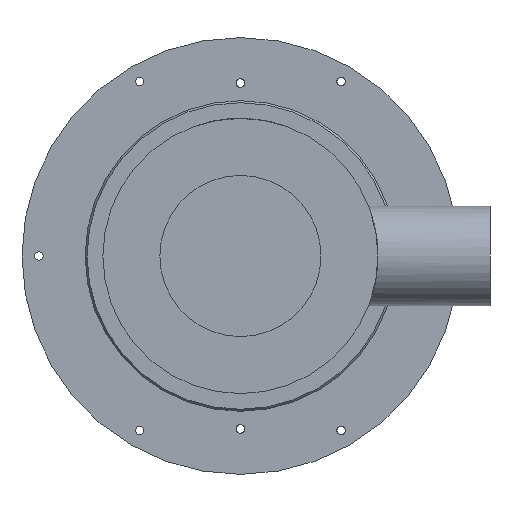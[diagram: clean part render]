
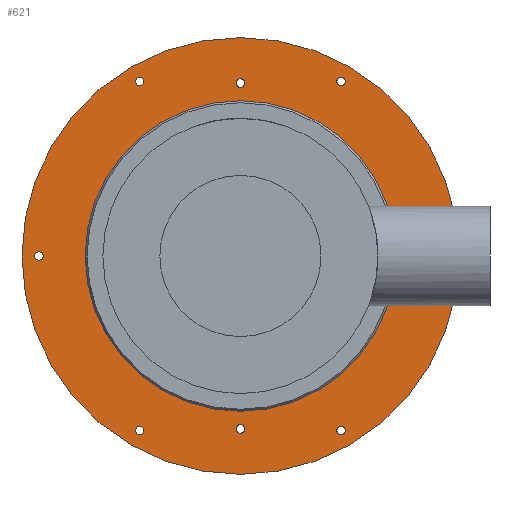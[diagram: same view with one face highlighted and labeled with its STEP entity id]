
A CAD part, front view. The second image highlights one B-rep face of the part: STEP entity #621.
In plain terms, the highlighted planar face has unit normal (0, -1, 0).
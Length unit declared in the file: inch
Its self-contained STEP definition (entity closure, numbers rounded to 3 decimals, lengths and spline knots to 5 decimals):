
#184=CARTESIAN_POINT('',(4.12008,1.03866,0.));
#185=VERTEX_POINT('',#184);
#186=CARTESIAN_POINT('',(4.03543,1.03866,0.));
#187=DIRECTION('',(0.0,1.0,0.0));
#188=DIRECTION('',(-1.0,0.0,0.0));
#189=AXIS2_PLACEMENT_3D('',#186,#187,#188);
#190=CIRCLE('',#189,0.08465);
#191=EDGE_CURVE('',#185,#185,#190,.T.);
#233=CARTESIAN_POINT('',(2.10236,1.03866,3.49478));
#234=VERTEX_POINT('',#233);
#235=CARTESIAN_POINT('',(2.01772,1.03866,3.49478));
#236=DIRECTION('',(0.0,1.0,0.0));
#237=DIRECTION('',(-1.0,0.0,0.0));
#238=AXIS2_PLACEMENT_3D('',#235,#236,#237);
#239=CIRCLE('',#238,0.08465);
#240=EDGE_CURVE('',#234,#234,#239,.T.);
#282=CARTESIAN_POINT('',(0.08465,1.03866,3.46457));
#283=VERTEX_POINT('',#282);
#284=CARTESIAN_POINT('',(0.,1.03866,3.46457));
#285=DIRECTION('',(0.0,1.0,0.0));
#286=DIRECTION('',(-1.0,0.0,0.0));
#287=AXIS2_PLACEMENT_3D('',#284,#285,#286);
#288=CIRCLE('',#287,0.08465);
#289=EDGE_CURVE('',#283,#283,#288,.T.);
#331=CARTESIAN_POINT('',(-1.93307,1.03866,3.49478));
#332=VERTEX_POINT('',#331);
#333=CARTESIAN_POINT('',(-2.01772,1.03866,3.49478));
#334=DIRECTION('',(0.0,1.0,0.0));
#335=DIRECTION('',(-1.0,0.0,0.0));
#336=AXIS2_PLACEMENT_3D('',#333,#334,#335);
#337=CIRCLE('',#336,0.08465);
#338=EDGE_CURVE('',#332,#332,#337,.T.);
#380=CARTESIAN_POINT('',(0.08465,1.03866,-3.46457));
#381=VERTEX_POINT('',#380);
#382=CARTESIAN_POINT('',(0.,1.03866,-3.46457));
#383=DIRECTION('',(0.0,1.0,0.0));
#384=DIRECTION('',(-1.0,0.0,0.0));
#385=AXIS2_PLACEMENT_3D('',#382,#383,#384);
#386=CIRCLE('',#385,0.08465);
#387=EDGE_CURVE('',#381,#381,#386,.T.);
#429=CARTESIAN_POINT('',(-1.93307,1.03866,-3.49478));
#430=VERTEX_POINT('',#429);
#431=CARTESIAN_POINT('',(-2.01772,1.03866,-3.49478));
#432=DIRECTION('',(0.0,1.0,0.0));
#433=DIRECTION('',(-1.0,0.0,0.0));
#434=AXIS2_PLACEMENT_3D('',#431,#432,#433);
#435=CIRCLE('',#434,0.08465);
#436=EDGE_CURVE('',#430,#430,#435,.T.);
#478=CARTESIAN_POINT('',(-3.95079,1.03866,0.));
#479=VERTEX_POINT('',#478);
#480=CARTESIAN_POINT('',(-4.03543,1.03866,0.));
#481=DIRECTION('',(0.0,1.0,0.0));
#482=DIRECTION('',(-1.0,0.0,0.0));
#483=AXIS2_PLACEMENT_3D('',#480,#481,#482);
#484=CIRCLE('',#483,0.08465);
#485=EDGE_CURVE('',#479,#479,#484,.T.);
#527=CARTESIAN_POINT('',(2.10236,1.03866,-3.49478));
#528=VERTEX_POINT('',#527);
#529=CARTESIAN_POINT('',(2.01772,1.03866,-3.49478));
#530=DIRECTION('',(0.0,1.0,0.0));
#531=DIRECTION('',(-1.0,0.0,0.0));
#532=AXIS2_PLACEMENT_3D('',#529,#530,#531);
#533=CIRCLE('',#532,0.08465);
#534=EDGE_CURVE('',#528,#528,#533,.T.);
#555=CARTESIAN_POINT('',(4.375,1.03866,0.));
#556=VERTEX_POINT('',#555);
#557=CARTESIAN_POINT('',(0.,1.03866,0.));
#558=DIRECTION('',(0.0,-1.0,0.0));
#559=DIRECTION('',(1.0,0.0,0.0));
#560=AXIS2_PLACEMENT_3D('',#557,#558,#559);
#561=CIRCLE('',#560,4.375);
#562=EDGE_CURVE('',#556,#556,#561,.T.);
#578=CARTESIAN_POINT('',(3.74301,1.03866,0.));
#579=DIRECTION('',(0.0,-1.0,0.0));
#580=DIRECTION('',(0.0,0.0,-1.0));
#581=AXIS2_PLACEMENT_3D('',#578,#579,#580);
#582=PLANE('',#581);
#583=ORIENTED_EDGE('',*,*,#562,.T.);
#584=EDGE_LOOP('',(#583));
#585=FACE_OUTER_BOUND('',#584,.T.);
#586=ORIENTED_EDGE('',*,*,#191,.T.);
#587=EDGE_LOOP('',(#586));
#588=FACE_BOUND('',#587,.T.);
#589=ORIENTED_EDGE('',*,*,#240,.T.);
#590=EDGE_LOOP('',(#589));
#591=FACE_BOUND('',#590,.T.);
#592=ORIENTED_EDGE('',*,*,#289,.T.);
#593=EDGE_LOOP('',(#592));
#594=FACE_BOUND('',#593,.T.);
#595=ORIENTED_EDGE('',*,*,#338,.T.);
#596=EDGE_LOOP('',(#595));
#597=FACE_BOUND('',#596,.T.);
#598=ORIENTED_EDGE('',*,*,#387,.T.);
#599=EDGE_LOOP('',(#598));
#600=FACE_BOUND('',#599,.T.);
#601=ORIENTED_EDGE('',*,*,#436,.T.);
#602=EDGE_LOOP('',(#601));
#603=FACE_BOUND('',#602,.T.);
#604=ORIENTED_EDGE('',*,*,#485,.T.);
#605=EDGE_LOOP('',(#604));
#606=FACE_BOUND('',#605,.T.);
#607=ORIENTED_EDGE('',*,*,#534,.T.);
#608=EDGE_LOOP('',(#607));
#609=FACE_BOUND('',#608,.T.);
#610=CARTESIAN_POINT('',(3.11103,1.03866,0.));
#611=VERTEX_POINT('',#610);
#612=CARTESIAN_POINT('',(0.,1.03866,0.));
#613=DIRECTION('',(0.0,-1.0,0.0));
#614=DIRECTION('',(1.0,0.0,0.0));
#615=AXIS2_PLACEMENT_3D('',#612,#613,#614);
#616=CIRCLE('',#615,3.11103);
#617=EDGE_CURVE('',#611,#611,#616,.T.);
#618=ORIENTED_EDGE('',*,*,#617,.F.);
#619=EDGE_LOOP('',(#618));
#620=FACE_BOUND('',#619,.T.);
#621=ADVANCED_FACE('',(#585,#588,#591,#594,#597,#600,#603,#606,#609,#620),#582,.T.);
